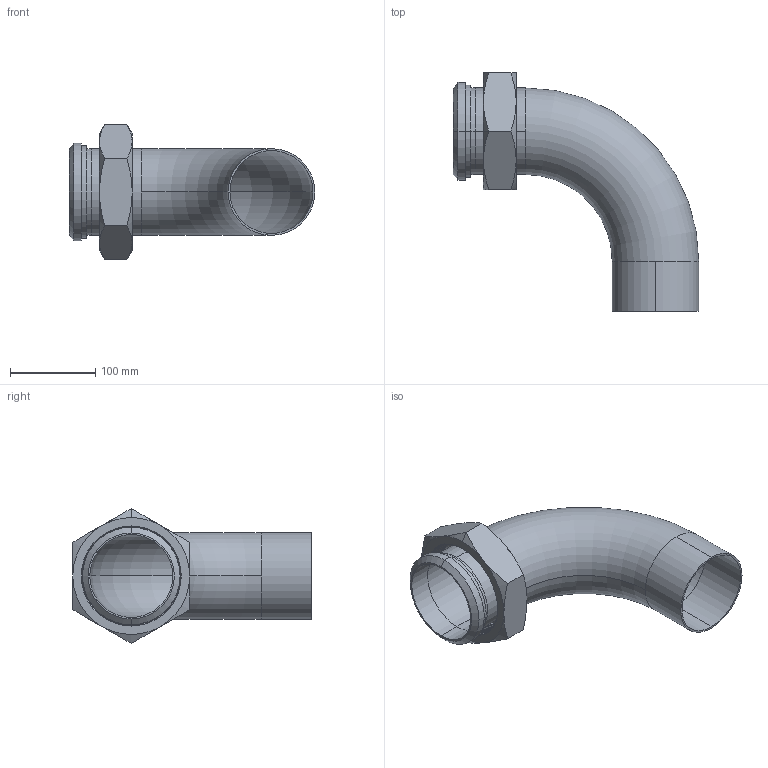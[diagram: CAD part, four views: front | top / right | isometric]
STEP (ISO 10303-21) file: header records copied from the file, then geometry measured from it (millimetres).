
FILE_DESCRIPTION (( 'STEP AP203' ), '1' );
FILE_NAME ('E2F4.0.STEP', '2018-05-02T15:25:34', ( 'vneprd' ), ( 'Microsoft' ), 'SwSTEP 2.0', 'SolidWorks 2014', '' );
FILE_SCHEMA (( 'CONFIG_CONTROL_DESIGN' ));
Length unit declared in the file: inch
Products named in the file (4): E2S4.0; 13H4.0; 14PR4.0; E2F4.0
Assembly tree (3 placements, depth 2):
  E2F4.0
    E2S4.0
    13H4.0
    14PR4.0
Bounding box: 288.11 x 279.7 x 158.38 mm (x, y, z)
Volume: 494742.9 mm3; surface area: 297397.6 mm2
Topology: 3 solids, 3 shells, 83 faces, 198 edges, 124 vertices
Faces by surface type: cylinder 37, cone 22, plane 17, torus 4, bspline 3
Entity records: 4811 total; most frequent: CARTESIAN_POINT 2566, ORIENTED_EDGE 396, DIRECTION 383, EDGE_CURVE 198, AXIS2_PLACEMENT_3D 161, VERTEX_POINT 124, EDGE_LOOP 92, ADVANCED_FACE 83
